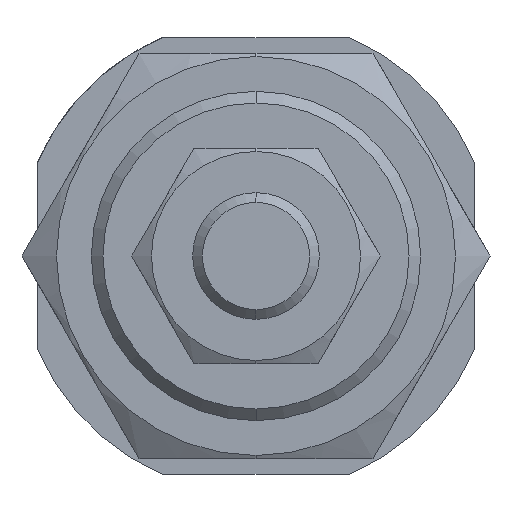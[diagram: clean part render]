
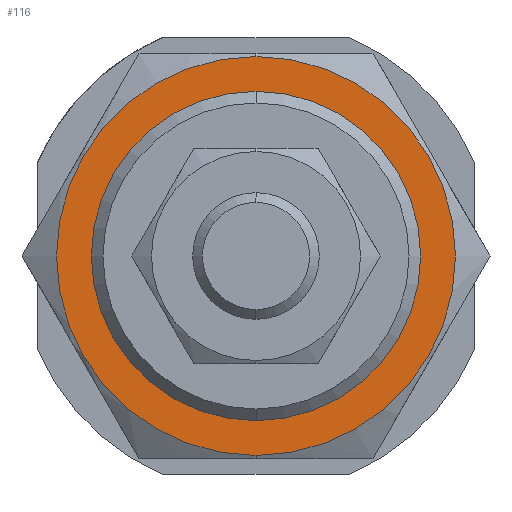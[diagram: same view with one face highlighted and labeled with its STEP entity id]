
A CAD part, left-side view. The second image highlights one B-rep face of the part: STEP entity #116.
In plain terms, the highlighted planar face has unit normal (-1, 0, 0).
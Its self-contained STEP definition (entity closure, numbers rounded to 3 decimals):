
#26 = AXIS2_PLACEMENT_3D ( 'NONE', #5201, #5120, #4756 ) ;
#116 = ADVANCED_FACE ( 'NONE', ( #4442, #719 ), #1972, .F. ) ;
#123 = CIRCLE ( 'NONE', #3175, 13. ) ;
#170 = EDGE_CURVE ( 'NONE', #1013, #4919, #123, .T. ) ;
#300 = DIRECTION ( 'NONE',  ( 1., 0., 0. ) ) ;
#419 = CARTESIAN_POINT ( 'NONE',  ( -11., 0., 15.75 ) ) ;
#486 = AXIS2_PLACEMENT_3D ( 'NONE', #1244, #4205, #4614 ) ;
#561 = CIRCLE ( 'NONE', #26, 15.75 ) ;
#719 = FACE_BOUND ( 'NONE', #2781, .T. ) ;
#751 = CARTESIAN_POINT ( 'NONE',  ( -11., 0., 0. ) ) ;
#773 = ORIENTED_EDGE ( 'NONE', *, *, #1228, .F. ) ;
#868 = CARTESIAN_POINT ( 'NONE',  ( -11., 0., -13. ) ) ;
#950 = CARTESIAN_POINT ( 'NONE',  ( -11., 0., -15.75 ) ) ;
#1013 = VERTEX_POINT ( 'NONE', #4384 ) ;
#1150 = CARTESIAN_POINT ( 'NONE',  ( -11., 0., 0. ) ) ;
#1228 = EDGE_CURVE ( 'NONE', #4933, #3969, #5048, .T. ) ;
#1244 = CARTESIAN_POINT ( 'NONE',  ( -11., 0., 0. ) ) ;
#1488 = AXIS2_PLACEMENT_3D ( 'NONE', #1150, #300, #5185 ) ;
#1944 = ORIENTED_EDGE ( 'NONE', *, *, #170, .T. ) ;
#1972 = PLANE ( 'NONE',  #5372 ) ;
#2781 = EDGE_LOOP ( 'NONE', ( #1944, #4709 ) ) ;
#2892 = CARTESIAN_POINT ( 'NONE',  ( -11., 0., 0. ) ) ;
#2974 = DIRECTION ( 'NONE',  ( 1., 0., 0. ) ) ;
#3175 = AXIS2_PLACEMENT_3D ( 'NONE', #2892, #2974, #4172 ) ;
#3655 = DIRECTION ( 'NONE',  ( 0., 1., 0. ) ) ;
#3969 = VERTEX_POINT ( 'NONE', #419 ) ;
#4062 = DIRECTION ( 'NONE',  ( 1., 0., 0. ) ) ;
#4108 = EDGE_LOOP ( 'NONE', ( #773, #5347 ) ) ;
#4172 = DIRECTION ( 'NONE',  ( 0., 0., -1. ) ) ;
#4205 = DIRECTION ( 'NONE',  ( 1., 0., 0. ) ) ;
#4344 = EDGE_CURVE ( 'NONE', #4919, #1013, #4472, .T. ) ;
#4384 = CARTESIAN_POINT ( 'NONE',  ( -11., 0., 13. ) ) ;
#4442 = FACE_OUTER_BOUND ( 'NONE', #4108, .T. ) ;
#4472 = CIRCLE ( 'NONE', #486, 13. ) ;
#4614 = DIRECTION ( 'NONE',  ( 0., 0., -1. ) ) ;
#4709 = ORIENTED_EDGE ( 'NONE', *, *, #4344, .T. ) ;
#4756 = DIRECTION ( 'NONE',  ( 0., 0., -1. ) ) ;
#4798 = EDGE_CURVE ( 'NONE', #3969, #4933, #561, .T. ) ;
#4919 = VERTEX_POINT ( 'NONE', #868 ) ;
#4933 = VERTEX_POINT ( 'NONE', #950 ) ;
#5048 = CIRCLE ( 'NONE', #1488, 15.75 ) ;
#5120 = DIRECTION ( 'NONE',  ( 1., 0., 0. ) ) ;
#5185 = DIRECTION ( 'NONE',  ( 0., 0., -1. ) ) ;
#5201 = CARTESIAN_POINT ( 'NONE',  ( -11., 0., 0. ) ) ;
#5347 = ORIENTED_EDGE ( 'NONE', *, *, #4798, .F. ) ;
#5372 = AXIS2_PLACEMENT_3D ( 'NONE', #751, #4062, #3655 ) ;
